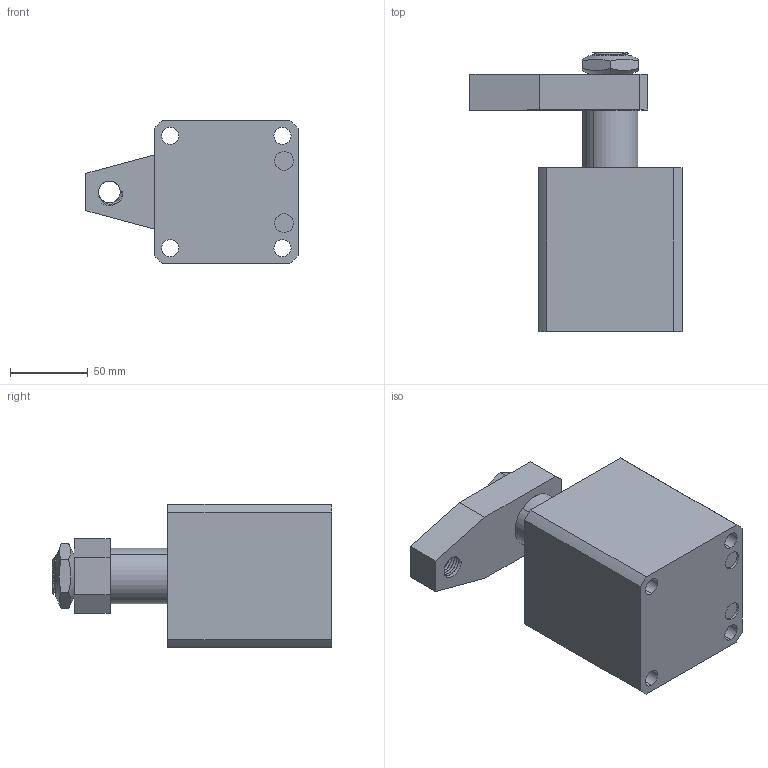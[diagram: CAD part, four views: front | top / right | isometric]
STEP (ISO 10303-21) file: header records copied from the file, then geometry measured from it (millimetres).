
FILE_DESCRIPTION (( 'STEP AP214' ), '1' );
FILE_NAME ('CHS-M63S.STEP', '2019-12-23T06:54:42', ( '' ), ( '' ), 'SwSTEP 2.0', 'SolidWorks 2016', '' );
FILE_SCHEMA (( 'AUTOMOTIVE_DESIGN' ));
Length unit declared in the file: millimetre
Products named in the file (5): CHS-63S-02_2; CHS-M63S; CHS-63S-01_2; M24_2; CHS-M63(BT)
Assembly tree (4 placements, depth 2):
  CHS-M63S
    CHS-63S-02_2
    CHS-M63(BT)
    M24_2
    CHS-63S-01_2
Bounding box: 136 x 179 x 92 mm (x, y, z)
Volume: 1045200.6 mm3; surface area: 121060.1 mm2
Topology: 4 solids, 5 shells, 169 faces, 531 edges, 380 vertices
Faces by surface type: cylinder 89, plane 44, cone 18, bspline 16, torus 2
Entity records: 22668 total; most frequent: CARTESIAN_POINT 16821, ORIENTED_EDGE 1058, DIRECTION 629, EDGE_CURVE 529, VERTEX_POINT 380, B_SPLINE_CURVE_WITH_KNOTS 302, AXIS2_PLACEMENT_3D 242, EDGE_LOOP 193
